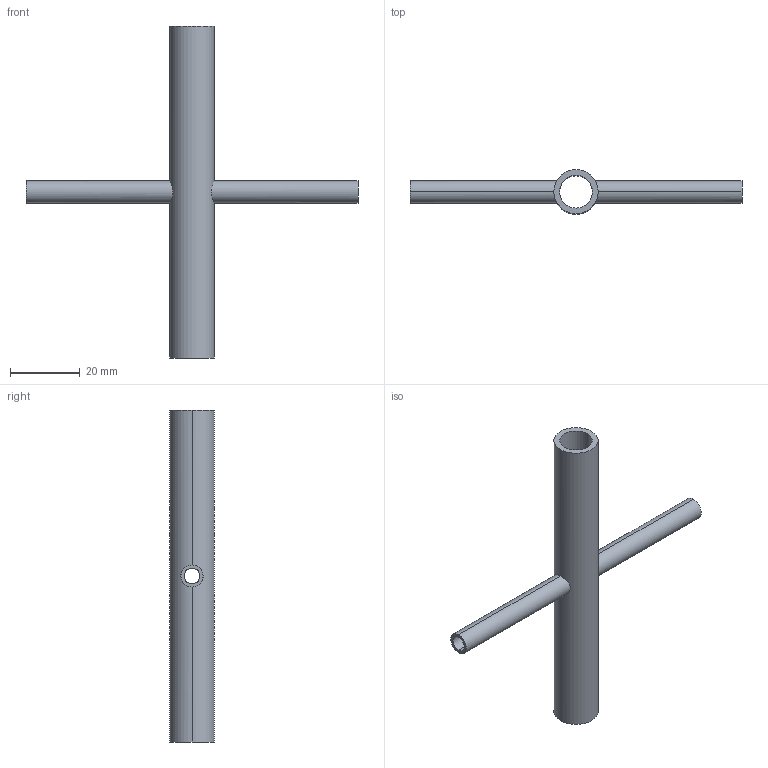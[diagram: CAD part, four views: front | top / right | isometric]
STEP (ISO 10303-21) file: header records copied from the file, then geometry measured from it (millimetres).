
FILE_DESCRIPTION (( 'STEP AP214' ), '1' );
FILE_NAME ('TE9RWWWW6L.5x.25-...STEP', '2016-05-22T04:02:24', ( 'eran' ), ( '' ), 'SwSTEP 2.0', 'SolidWorks 2016', '' );
FILE_SCHEMA (( 'AUTOMOTIVE_DESIGN' ));
Length unit declared in the file: millimetre
Products named in the file (1): TE9RWWWW6L.5x.25-..
Bounding box: 95.25 x 12.7 x 95.25 mm (x, y, z)
Volume: 6671.8 mm3; surface area: 9563.2 mm2
Topology: 1 solids, 1 shells, 16 faces, 40 edges, 24 vertices
Faces by surface type: cylinder 12, plane 4
Entity records: 738 total; most frequent: CARTESIAN_POINT 313, DIRECTION 82, ORIENTED_EDGE 80, EDGE_CURVE 40, AXIS2_PLACEMENT_3D 33, VERTEX_POINT 24, EDGE_LOOP 20, VECTOR 16
